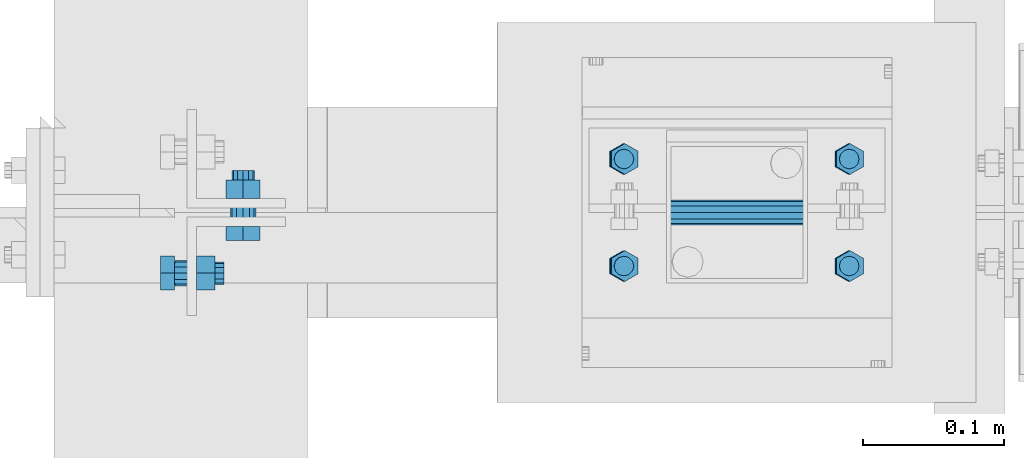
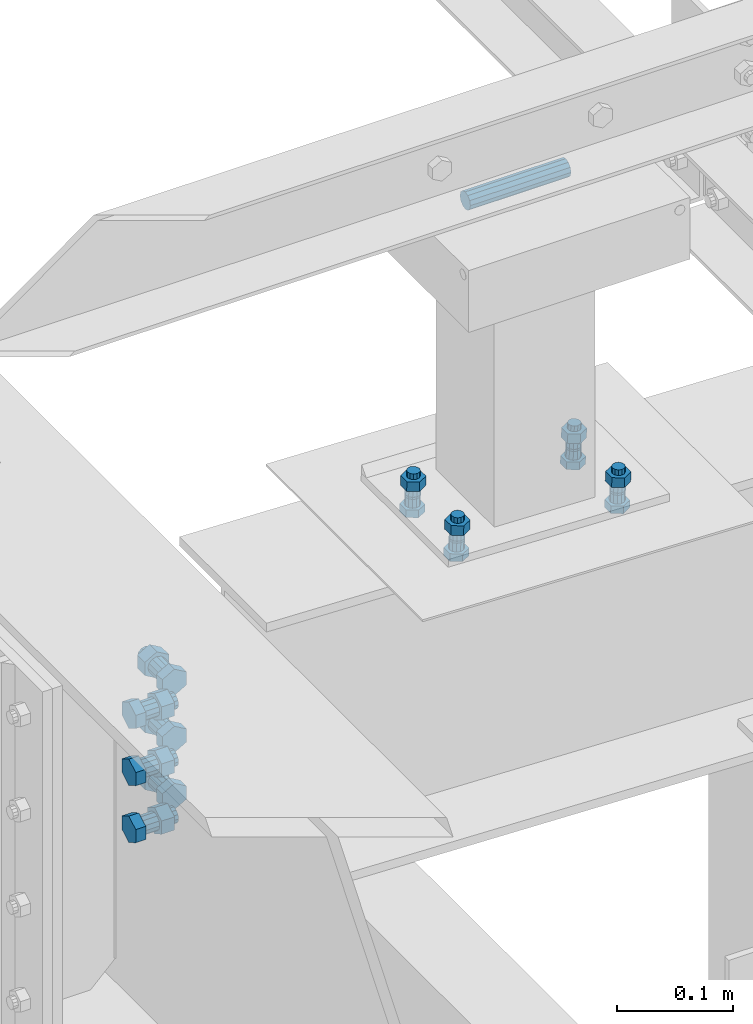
# One storey, part 45 of 3134: 5 mechanical fasteners, 3 elements without a shape of their own.
"""IFC2X3 building model written with IfcOpenShell, lengths in millimetres."""

import ifcopenshell
import ifcopenshell.guid

model = None  # the IFC model being written
_history = None  # IfcOwnerHistory: only IFC2X3 demands one
_inside = {}  # id of a spatial element -> (the spatial element, [elements in it])
_under = {}  # id of a project, library or spatial element -> (it, [spatial elements below it])
_declared = {}  # id of a project -> (the project, [libraries it declares])
_typed = {}  # id of a type object -> (the type object, [elements of that type])
_made_of = {}  # id of a material, layer set ... -> (it, [elements and type objects made of it])


def new_model(schema):
    """Start an empty IFC model of exactly this schema.

    Asked for "IFC4X3", IfcOpenShell would pick the latest addendum, in which some entities
    have other attributes; the version numbers below select the first issue.
    IFC2X3 requires an IfcOwnerHistory on every rooted entity: one is made here for all.
    """
    global model, _history
    if schema == "IFC4X3":
        model = ifcopenshell.file(schema_version=(4, 3, 0, 0))
    else:
        model = ifcopenshell.file(schema=schema)
    _inside.clear()
    _under.clear()
    _declared.clear()
    _typed.clear()
    _made_of.clear()
    _history = None
    if model.schema == "IFC2X3":
        org = make("IfcOrganization", Name="unknown")
        user = make(
            "IfcPersonAndOrganization",
            ThePerson=make("IfcPerson", FamilyName="unknown"),
            TheOrganization=org,
        )
        app = make(
            "IfcApplication",
            ApplicationDeveloper=org,
            Version="unknown",
            ApplicationFullName="unknown",
            ApplicationIdentifier="unknown",
        )
        _history = make(
            "IfcOwnerHistory",
            OwningUser=user,
            OwningApplication=app,
            ChangeAction="ADDED",
            CreationDate=0,
        )
    return model


def make(cls, **values):
    """One entity of the class cls with the attributes given. An attribute that is None is left unset."""
    return model.create_entity(
        cls, **{name: value for name, value in values.items() if value is not None}
    )


def rooted(cls, **values):
    """An entity with a GlobalId (a new one), such as an element, a storey or a relation."""
    return make(cls, GlobalId=ifcopenshell.guid.new(), OwnerHistory=_history, **values)


def si_unit(unit_type, name, prefix=None):
    """IfcSIUnit, for example si_unit("LENGTHUNIT", "METRE", prefix="MILLI")."""
    return make("IfcSIUnit", UnitType=unit_type, Prefix=prefix, Name=name)


def assignment(units):
    """IfcUnitAssignment: the units of a project."""
    return None if units is None else make("IfcUnitAssignment", Units=units)


def point(xyz):
    """IfcCartesianPoint."""
    return None if xyz is None else make("IfcCartesianPoint", Coordinates=xyz)


def direction(xyz):
    """IfcDirection."""
    return None if xyz is None else make("IfcDirection", DirectionRatios=xyz)


def frame(location, z_axis=None, x_axis=None):
    """IfcAxis2Placement3D, a coordinate frame: its origin and axes. An axis left out is left unset."""
    return make(
        "IfcAxis2Placement3D",
        Location=point(location),
        Axis=direction(z_axis),
        RefDirection=direction(x_axis),
    )


def origin_with_axes():
    """The frame at (0, 0, 0) with the z axis (0, 0, 1) and the x axis (1, 0, 0) written out."""
    return frame((0.0, 0.0, 0.0), z_axis=(0.0, 0.0, 1.0), x_axis=(1.0, 0.0, 0.0))


def place(relative_to, where):
    """IfcLocalPlacement: puts the frame where relative to a parent placement (None: the world)."""
    return make(
        "IfcLocalPlacement", PlacementRelTo=relative_to, RelativePlacement=where
    )


def context(
    kind, dimensions, precision=None, world=None, true_north=None, identifier=None
):
    """IfcGeometricRepresentationContext, for example the 3D "Model" context."""
    return make(
        "IfcGeometricRepresentationContext",
        ContextIdentifier=identifier,
        ContextType=kind,
        CoordinateSpaceDimension=dimensions,
        Precision=precision,
        WorldCoordinateSystem=world,
        TrueNorth=true_north,
    )


def subcontext(parent, identifier, kind, view, scale=None):
    """IfcGeometricRepresentationSubContext, for example "Body" below "Model"."""
    return make(
        "IfcGeometricRepresentationSubContext",
        ContextIdentifier=identifier,
        ContextType=kind,
        ParentContext=parent,
        TargetScale=scale,
        TargetView=view,
    )


def project(units=None, contexts=None):
    """IfcProject with its units and contexts."""
    return rooted(
        "IfcProject",
        Name="project",
        RepresentationContexts=contexts,
        UnitsInContext=assignment(units),
    )


def spatial(cls, under=None, at=None, **own):
    """A site, building, storey or space (cls), placed at a placement, below another one or the project."""
    s = rooted(cls, ObjectPlacement=at, **own)
    if under is not None:
        _under.setdefault(under.id(), (under, []))[1].append(s)
    return s


def faces_of(points, faces, orient=None, outer=None):
    """IfcFace entities. A face is a list of loops; a loop is a list of indices into points, from 0.

    orient and outer hold one flag for each loop. By default every Orientation is true, the
    first loop of a face is its IfcFaceOuterBound and the others are IfcFaceBound.
    """
    made = []
    for i, loops in enumerate(faces):
        bounds = []
        for j, loop in enumerate(loops):
            is_outer = j == 0 if outer is None else outer[i][j]
            bounds.append(
                make(
                    "IfcFaceOuterBound" if is_outer else "IfcFaceBound",
                    Bound=make("IfcPolyLoop", Polygon=[points[k] for k in loop]),
                    Orientation=True if orient is None else orient[i][j],
                )
            )
        made.append(make("IfcFace", Bounds=bounds))
    return made


def faceted_brep(points, faces, orient=None, outer=None, voids=None):
    """IfcFacetedBrep: a solid bounded by flat faces; with voids (closed shells), ...WithVoids."""
    shared = [point(p) for p in points]
    hull = make("IfcClosedShell", CfsFaces=faces_of(shared, faces, orient, outer))
    if voids is None:
        return make("IfcFacetedBrep", Outer=hull)
    return make(
        "IfcFacetedBrepWithVoids",
        Outer=hull,
        Voids=[
            make(cls, CfsFaces=faces_of(shared, fs, o, b)) for cls, fs, o, b in voids
        ],
    )


def shape(context_of_items, identifier, shape_type, items):
    """IfcShapeRepresentation: the items that make up one representation, for example the "Body"."""
    return make(
        "IfcShapeRepresentation",
        ContextOfItems=context_of_items,
        RepresentationIdentifier=identifier,
        RepresentationType=shape_type,
        Items=items,
    )


def source(mapping_origin, context_of_items, identifier, shape_type, items):
    """IfcRepresentationMap: a shape defined once, which mapped items show again and again."""
    return make(
        "IfcRepresentationMap",
        MappingOrigin=mapping_origin,
        MappedRepresentation=shape(context_of_items, identifier, shape_type, items),
    )


def transform(
    local_origin,
    x_axis=None,
    y_axis=None,
    z_axis=None,
    scale=None,
    scale2=None,
    scale3=None,
    uniform=True,
):
    """IfcCartesianTransformationOperator3D, or its non-uniform kind. x_axis, y_axis, z_axis: its Axis1, 2, 3."""
    if uniform:
        return make(
            "IfcCartesianTransformationOperator3D",
            Axis1=direction(x_axis),
            Axis2=direction(y_axis),
            LocalOrigin=point(local_origin),
            Scale=scale,
            Axis3=direction(z_axis),
        )
    return make(
        "IfcCartesianTransformationOperator3DnonUniform",
        Axis1=direction(x_axis),
        Axis2=direction(y_axis),
        LocalOrigin=point(local_origin),
        Scale=scale,
        Axis3=direction(z_axis),
        Scale2=scale2,
        Scale3=scale3,
    )


def mapped(mapping_source, mapping_target):
    """IfcMappedItem: shows the shape of a source again, moved by a transform."""
    return make(
        "IfcMappedItem", MappingSource=mapping_source, MappingTarget=mapping_target
    )


def material(Name=None, Category=None):
    """IfcMaterial."""
    return make("IfcMaterial", Name=Name, Category=Category)


def made_of(thing, what):
    """Note that an element or type object is made of a material, layer set ...; save() writes the relation."""
    if what is not None:
        _made_of.setdefault(what.id(), (what, []))[1].append(thing)
    return thing


def type_object(cls, material=None, **own):
    """A type object (cls), such as IfcWallType, which elements share."""
    return made_of(rooted(cls, **own), material)


def element(
    cls,
    number,
    at=None,
    inside=None,
    cuts=None,
    type_object=None,
    material=None,
    context=None,
    identifier="Body",
    shape_type=None,
    held_by="IfcProductDefinitionShape",
    body=None,
    shapes=None,
    **own,
):
    """One element of the class cls, such as IfcWall. Its Tag is "e" and its number.

    at: its placement. inside: the storey or other place that contains it. cuts: it is an
    opening in that element (IfcRelVoidsElement). A single representation is given by context,
    identifier, shape_type and body (its items); several are given by shapes. held_by: the class
    of the entity that holds the representations. save() writes the other relations.
    """
    e = rooted(cls, Tag="e%d" % number, ObjectPlacement=at, **own)
    if body is not None:
        shapes = [shape(context, identifier, shape_type, body)]
    if shapes is not None:
        e.Representation = make(held_by, Representations=shapes)
    if inside is not None:
        _inside.setdefault(inside.id(), (inside, []))[1].append(e)
    if cuts is not None:
        rooted(
            "IfcRelVoidsElement", RelatingBuildingElement=cuts, RelatedOpeningElement=e
        )
    if type_object is not None:
        _typed.setdefault(type_object.id(), (type_object, []))[1].append(e)
    return made_of(e, material)


def aggregate(whole, parts):
    """IfcRelAggregates: a whole, such as a stair, and the parts it consists of."""
    return rooted("IfcRelAggregates", RelatingObject=whole, RelatedObjects=parts)


def save(model, path):
    """Write the relations noted so far, then the file.

    IfcRelAggregates (storeys below a building ...), IfcRelContainedInSpatialStructure (elements
    in a storey), IfcRelDefinesByType, IfcRelAssociatesMaterial and IfcRelDeclares: one each for
    every whole, place, type object, material and project.
    """
    for whole, parts in _under.values():
        aggregate(whole, parts)
    for where, things in _inside.values():
        rooted(
            "IfcRelContainedInSpatialStructure",
            RelatedElements=things,
            RelatingStructure=where,
        )
    for kind, things in _typed.values():
        rooted("IfcRelDefinesByType", RelatedObjects=things, RelatingType=kind)
    for what, things in _made_of.values():
        rooted("IfcRelAssociatesMaterial", RelatedObjects=things, RelatingMaterial=what)
    for by, libraries in _declared.values():
        rooted("IfcRelDeclares", RelatingContext=by, RelatedDefinitions=libraries)
    model.write(path)


model = new_model("IFC2X3")

# Units and contexts
model_context = context("Model", 3, precision=1e-05, world=origin_with_axes())
body_context = subcontext(model_context, "Body", "Model", "MODEL_VIEW")
ifc_project = project(units=[si_unit("LENGTHUNIT", "METRE", prefix="MILLI"), si_unit("AREAUNIT", "SQUARE_METRE"), si_unit("VOLUMEUNIT", "CUBIC_METRE"), si_unit("MASSUNIT", "GRAM", prefix="KILO"), si_unit("TIMEUNIT", "SECOND"), si_unit("PLANEANGLEUNIT", "RADIAN"), si_unit("SOLIDANGLEUNIT", "STERADIAN"), si_unit("THERMODYNAMICTEMPERATUREUNIT", "DEGREE_CELSIUS"), si_unit("LUMINOUSINTENSITYUNIT", "LUMEN")], contexts=[model_context])

# Site, building, storey
site_placement = place(None, origin_with_axes())
site = spatial("IfcSite", under=ifc_project, at=site_placement, CompositionType="ELEMENT")
building_placement = place(site_placement, origin_with_axes())
building = spatial("IfcBuilding", under=site, at=building_placement, Name="Undefined", CompositionType="ELEMENT")
storey_placement = place(building_placement, origin_with_axes())
storey = spatial("IfcBuildingStorey", under=building, at=storey_placement, Name="Undefined", CompositionType="ELEMENT", Elevation=0.0)

# Assembly, mechanical fasteners
assembly_1_placement = place(storey_placement, origin_with_axes())
assembly_1 = element("IfcElementAssembly", 1, at=assembly_1_placement, inside=storey, AssemblyPlace="NOTDEFINED", PredefinedType="RIGID_FRAME")
ifc_material = material(Name="8.8")
mechanical_fastener_type = type_object("IfcMechanicalFastenerType", Name="Bolt assembly")
shared_shape_1 = source(origin_with_axes(), body_context, "Body", "Brep", [
    faceted_brep([(13.856406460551, -18.5936482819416, 0.0), (6.92820323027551, -18.5936482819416, 12.0), (-6.92820323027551, -18.5936482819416, 12.0), (-13.856406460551, -18.5936482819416, 1.69692038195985e-15), (-6.92820323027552, -18.5936482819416, -12.0), (6.9282032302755, -18.5936482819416, -12.0), (6.9282032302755, -8.59364828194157, -12.0), (-6.92820323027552, -8.59364828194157, -12.0), (-13.856406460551, -8.59364828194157, 1.69692038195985e-15), (-6.92820323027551, -8.59364828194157, 12.0), (6.92820323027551, -8.59364828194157, 12.0), (13.856406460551, -8.59364828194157, 0.0), (8.0, -8.59364828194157, 0.0), (6.92820323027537, -8.59364828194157, 4.00000000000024), (3.99999999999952, -8.59364828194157, 6.92820323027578), (-8.29068785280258e-13, -8.59364828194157, 8.0), (-4.00000000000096, -8.59364828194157, 6.92820323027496), (-6.9282032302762, -8.59364828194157, 3.99999999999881), (-8.0, -8.59364828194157, -1.65813757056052e-12), (-6.92820323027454, -8.59364828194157, -4.00000000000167), (-3.99999999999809, -8.59364828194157, -6.92820323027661), (2.47832457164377e-12, -8.59364828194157, -8.0), (4.00000000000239, -8.59364828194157, -6.92820323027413), (6.92820323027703, -8.59364828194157, -3.99999999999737), (6.92820323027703, 26.4063517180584, -3.99999999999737), (4.00000000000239, 26.4063517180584, -6.92820323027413), (2.47832457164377e-12, 26.4063517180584, -8.0), (-3.99999999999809, 26.4063517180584, -6.92820323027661), (-6.92820323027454, 26.4063517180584, -4.00000000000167), (-8.0, 26.4063517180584, -1.65813757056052e-12), (-6.9282032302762, 26.4063517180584, 3.99999999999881), (-4.00000000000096, 26.4063517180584, 6.92820323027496), (-8.29068785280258e-13, 26.4063517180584, 8.0), (3.99999999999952, 26.4063517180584, 6.92820323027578), (6.92820323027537, 26.4063517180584, 4.00000000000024), (8.0, 26.4063517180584, 0.0), (13.856406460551, 7.0, 0.0), (6.92820323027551, 7.0, 12.0), (-6.92820323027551, 7.0, 12.0), (-13.856406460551, 7.0, 1.69692038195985e-15), (-6.92820323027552, 7.0, -12.0), (6.9282032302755, 7.0, -12.0), (6.9282032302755, 20.0, -12.0), (-6.92820323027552, 20.0, -12.0), (-13.856406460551, 20.0, 1.69692038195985e-15), (-6.92820323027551, 20.0, 12.0), (6.92820323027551, 20.0, 12.0), (13.856406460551, 20.0, 0.0)], [[[0, 1, 2, 3, 4, 5]], [[6, 7, 8, 9, 10, 11]], [[0, 11, 10, 1]], [[1, 10, 9, 2]], [[2, 9, 8, 3]], [[3, 8, 7, 4]], [[4, 7, 6, 5]], [[5, 6, 11, 0]], [[12, 13, 14, 15, 16, 17, 18, 19, 20, 21, 22, 23]], [[24, 25, 26, 27, 28, 29, 30, 31, 32, 33, 34, 35]], [[12, 35, 34, 13]], [[13, 34, 33, 14]], [[14, 33, 32, 15]], [[15, 32, 31, 16]], [[16, 31, 30, 17]], [[17, 30, 29, 18]], [[18, 29, 28, 19]], [[19, 28, 27, 20]], [[20, 27, 26, 21]], [[21, 26, 25, 22]], [[22, 25, 24, 23]], [[23, 24, 35, 12]], [[36, 37, 38, 39, 40, 41]], [[42, 43, 44, 45, 46, 47]], [[36, 47, 46, 37]], [[37, 46, 45, 38]], [[38, 45, 44, 39]], [[39, 44, 43, 40]], [[40, 43, 42, 41]], [[41, 42, 47, 36]]]),
    faceted_brep([(9.0, -8.49364828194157, 0.0), (7.79422863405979, -8.49364828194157, 4.50000000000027), (4.49999999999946, -8.49364828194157, 7.79422863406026), (-9.3270238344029e-13, -8.49364828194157, 9.0), (-4.50000000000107, -8.49364828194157, 7.79422863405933), (-7.79422863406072, -8.49364828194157, 4.49999999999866), (-9.0, -8.49364828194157, -1.86540476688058e-12), (-7.79422863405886, -8.49364828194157, -4.50000000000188), (-4.49999999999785, -8.49364828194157, -7.79422863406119), (2.78811514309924e-12, -8.49364828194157, -9.0), (4.50000000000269, -8.49364828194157, -7.7942286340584), (7.79422863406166, -8.49364828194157, -4.49999999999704), (7.79422863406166, 0.10635209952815, -4.49999999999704), (4.50000000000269, 0.10635209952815, -7.7942286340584), (2.78811514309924e-12, 0.10635209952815, -9.0), (-4.49999999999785, 0.10635209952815, -7.79422863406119), (-7.79422863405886, 0.10635209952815, -4.50000000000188), (-9.0, 0.10635209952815, -1.86540476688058e-12), (-7.79422863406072, 0.10635209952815, 4.49999999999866), (-4.50000000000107, 0.10635209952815, 7.79422863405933), (-9.3270238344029e-13, 0.10635209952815, 9.0), (4.49999999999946, 0.10635209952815, 7.79422863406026), (7.79422863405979, 0.10635209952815, 4.50000000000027), (9.0, 0.10635209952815, 0.0), (9.0, -0.1, 0.0), (7.79422863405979, -0.1, 4.50000000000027), (4.49999999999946, -0.1, 7.79422863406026), (-9.3270238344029e-13, -0.1, 9.0), (-4.50000000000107, -0.1, 7.79422863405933), (-7.79422863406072, -0.1, 4.49999999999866), (-9.0, -0.1, -1.86540476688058e-12), (-7.79422863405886, -0.1, -4.50000000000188), (-4.49999999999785, -0.1, -7.79422863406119), (2.78811514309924e-12, -0.1, -9.0), (4.50000000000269, -0.1, -7.7942286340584), (7.79422863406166, -0.1, -4.49999999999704), (7.79422863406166, 7.0, -4.49999999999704), (4.50000000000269, 7.0, -7.7942286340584), (2.78811514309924e-12, 7.0, -9.0), (-4.49999999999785, 7.0, -7.79422863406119), (-7.79422863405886, 7.0, -4.50000000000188), (-9.0, 7.0, -1.86540476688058e-12), (-7.79422863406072, 7.0, 4.49999999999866), (-4.50000000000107, 7.0, 7.79422863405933), (-9.3270238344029e-13, 7.0, 9.0), (4.49999999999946, 7.0, 7.79422863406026), (7.79422863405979, 7.0, 4.50000000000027), (9.0, 7.0, 0.0)], [[[0, 1, 2, 3, 4, 5, 6, 7, 8, 9, 10, 11]], [[12, 13, 14, 15, 16, 17, 18, 19, 20, 21, 22, 23]], [[0, 23, 22, 1]], [[1, 22, 21, 2]], [[2, 21, 20, 3]], [[3, 20, 19, 4]], [[4, 19, 18, 5]], [[5, 18, 17, 6]], [[6, 17, 16, 7]], [[7, 16, 15, 8]], [[8, 15, 14, 9]], [[9, 14, 13, 10]], [[10, 13, 12, 11]], [[11, 12, 23, 0]], [[24, 25, 26, 27, 28, 29, 30, 31, 32, 33, 34, 35]], [[36, 37, 38, 39, 40, 41, 42, 43, 44, 45, 46, 47]], [[24, 47, 46, 25]], [[25, 46, 45, 26]], [[26, 45, 44, 27]], [[27, 44, 43, 28]], [[28, 43, 42, 29]], [[29, 42, 41, 30]], [[30, 41, 40, 31]], [[31, 40, 39, 32]], [[32, 39, 38, 33]], [[33, 38, 37, 34]], [[34, 37, 36, 35]], [[35, 36, 47, 24]]]),
])
mechanical_fastener_1_placement = place(assembly_1_placement, frame((4.29364809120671, 19406.96, 3841.86727512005), z_axis=(0.0, 1.0, 0.0), x_axis=(0.0, 0.0, 1.0)))
mechanical_fastener_1 = element("IfcMechanicalFastener", 2, at=mechanical_fastener_1_placement, type_object=mechanical_fastener_type, material=ifc_material, Name="Bolt assembly", NominalDiameter=16.0, NominalLength=35.0, context=body_context, shape_type="MappedRepresentation", body=[
    mapped(shared_shape_1, transform((0.0, 0.0, 0.0))),
    mapped(shared_shape_1, transform((59.9999999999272, 0.0, 5.40239852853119e-10))),
    mapped(shared_shape_1, transform((120.0, 0.0, 0.0))),
])
shared_shape_2 = source(origin_with_axes(), body_context, "Body", "Brep", [
    faceted_brep([(13.856406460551, -20.0400000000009, 0.0), (6.92820323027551, -20.0400000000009, 12.0), (-6.92820323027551, -20.0400000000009, 12.0), (-13.856406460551, -20.0400000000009, 1.69692038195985e-15), (-6.92820323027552, -20.0400000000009, -12.0), (6.9282032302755, -20.0400000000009, -12.0), (6.9282032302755, -10.0400000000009, -12.0), (-6.92820323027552, -10.0400000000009, -12.0), (-13.856406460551, -10.0400000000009, 1.69692038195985e-15), (-6.92820323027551, -10.0400000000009, 12.0), (6.92820323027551, -10.0400000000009, 12.0), (13.856406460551, -10.0400000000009, 0.0), (8.0, -10.0400000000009, 0.0), (6.92820323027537, -10.0400000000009, 4.00000000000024), (3.99999999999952, -10.0400000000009, 6.92820323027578), (-8.29068785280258e-13, -10.0400000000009, 8.0), (-4.00000000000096, -10.0400000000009, 6.92820323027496), (-6.9282032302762, -10.0400000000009, 3.99999999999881), (-8.0, -10.0400000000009, -1.65813757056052e-12), (-6.92820323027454, -10.0400000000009, -4.00000000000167), (-3.99999999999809, -10.0400000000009, -6.92820323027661), (2.47832457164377e-12, -10.0400000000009, -8.0), (4.00000000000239, -10.0400000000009, -6.92820323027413), (6.92820323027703, -10.0400000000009, -3.99999999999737), (6.92820323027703, 29.9599999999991, -3.99999999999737), (4.00000000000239, 29.9599999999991, -6.92820323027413), (2.47832457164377e-12, 29.9599999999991, -8.0), (-3.99999999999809, 29.9599999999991, -6.92820323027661), (-6.92820323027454, 29.9599999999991, -4.00000000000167), (-8.0, 29.9599999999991, -1.65813757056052e-12), (-6.9282032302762, 29.9599999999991, 3.99999999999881), (-4.00000000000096, 29.9599999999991, 6.92820323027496), (-8.29068785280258e-13, 29.9599999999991, 8.0), (3.99999999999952, 29.9599999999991, 6.92820323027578), (6.92820323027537, 29.9599999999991, 4.00000000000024), (8.0, 29.9599999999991, 0.0), (13.856406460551, 10.0400000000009, 0.0), (6.92820323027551, 10.0400000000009, 12.0), (-6.92820323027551, 10.0400000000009, 12.0), (-13.856406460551, 10.0400000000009, 1.69692038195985e-15), (-6.92820323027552, 10.0400000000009, -12.0), (6.9282032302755, 10.0400000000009, -12.0), (6.9282032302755, 23.0400000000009, -12.0), (-6.92820323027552, 23.0400000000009, -12.0), (-13.856406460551, 23.0400000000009, 1.69692038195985e-15), (-6.92820323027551, 23.0400000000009, 12.0), (6.92820323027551, 23.0400000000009, 12.0), (13.856406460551, 23.0400000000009, 0.0)], [[[0, 1, 2, 3, 4, 5]], [[6, 7, 8, 9, 10, 11]], [[0, 11, 10, 1]], [[1, 10, 9, 2]], [[2, 9, 8, 3]], [[3, 8, 7, 4]], [[4, 7, 6, 5]], [[5, 6, 11, 0]], [[12, 13, 14, 15, 16, 17, 18, 19, 20, 21, 22, 23]], [[24, 25, 26, 27, 28, 29, 30, 31, 32, 33, 34, 35]], [[12, 35, 34, 13]], [[13, 34, 33, 14]], [[14, 33, 32, 15]], [[15, 32, 31, 16]], [[16, 31, 30, 17]], [[17, 30, 29, 18]], [[18, 29, 28, 19]], [[19, 28, 27, 20]], [[20, 27, 26, 21]], [[21, 26, 25, 22]], [[22, 25, 24, 23]], [[23, 24, 35, 12]], [[36, 37, 38, 39, 40, 41]], [[42, 43, 44, 45, 46, 47]], [[36, 47, 46, 37]], [[37, 46, 45, 38]], [[38, 45, 44, 39]], [[39, 44, 43, 40]], [[40, 43, 42, 41]], [[41, 42, 47, 36]]]),
    faceted_brep([(9.0, -3.04999995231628, 0.0), (7.79422863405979, -3.04999995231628, 4.50000000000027), (4.49999999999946, -3.04999995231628, 7.79422863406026), (-9.3270238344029e-13, -3.04999995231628, 9.0), (-4.50000000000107, -3.04999995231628, 7.79422863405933), (-7.79422863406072, -3.04999995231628, 4.49999999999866), (-9.0, -3.04999995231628, -1.86540476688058e-12), (-7.79422863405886, -3.04999995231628, -4.50000000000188), (-4.49999999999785, -3.04999995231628, -7.79422863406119), (2.78811514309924e-12, -3.04999995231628, -9.0), (4.50000000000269, -3.04999995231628, -7.7942286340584), (7.79422863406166, -3.04999995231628, -4.49999999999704), (7.79422863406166, 3.04999995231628, -4.49999999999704), (4.50000000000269, 3.04999995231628, -7.7942286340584), (2.78811514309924e-12, 3.04999995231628, -9.0), (-4.49999999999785, 3.04999995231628, -7.79422863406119), (-7.79422863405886, 3.04999995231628, -4.50000000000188), (-9.0, 3.04999995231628, -1.86540476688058e-12), (-7.79422863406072, 3.04999995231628, 4.49999999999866), (-4.50000000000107, 3.04999995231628, 7.79422863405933), (-9.3270238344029e-13, 3.04999995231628, 9.0), (4.49999999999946, 3.04999995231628, 7.79422863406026), (7.79422863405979, 3.04999995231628, 4.50000000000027), (9.0, 3.04999995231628, 0.0), (9.0, -9.94000000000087, 0.0), (7.79422863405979, -9.94000000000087, 4.50000000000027), (4.49999999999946, -9.94000000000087, 7.79422863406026), (-9.3270238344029e-13, -9.94000000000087, 9.0), (-4.50000000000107, -9.94000000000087, 7.79422863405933), (-7.79422863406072, -9.94000000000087, 4.49999999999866), (-9.0, -9.94000000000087, -1.86540476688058e-12), (-7.79422863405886, -9.94000000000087, -4.50000000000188), (-4.49999999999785, -9.94000000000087, -7.79422863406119), (2.78811514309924e-12, -9.94000000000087, -9.0), (4.50000000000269, -9.94000000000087, -7.7942286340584), (7.79422863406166, -9.94000000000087, -4.49999999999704), (7.79422863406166, -2.94000000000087, -4.49999999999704), (4.50000000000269, -2.94000000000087, -7.7942286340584), (2.78811514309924e-12, -2.94000000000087, -9.0), (-4.49999999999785, -2.94000000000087, -7.79422863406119), (-7.79422863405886, -2.94000000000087, -4.50000000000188), (-9.0, -2.94000000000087, -1.86540476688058e-12), (-7.79422863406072, -2.94000000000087, 4.49999999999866), (-4.50000000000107, -2.94000000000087, 7.79422863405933), (-9.3270238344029e-13, -2.94000000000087, 9.0), (4.49999999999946, -2.94000000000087, 7.79422863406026), (7.79422863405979, -2.94000000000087, 4.50000000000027), (9.0, -2.94000000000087, 0.0), (9.0, 2.94000000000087, 0.0), (7.79422863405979, 2.94000000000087, 4.50000000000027), (4.49999999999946, 2.94000000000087, 7.79422863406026), (-9.3270238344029e-13, 2.94000000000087, 9.0), (-4.50000000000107, 2.94000000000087, 7.79422863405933), (-7.79422863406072, 2.94000000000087, 4.49999999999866), (-9.0, 2.94000000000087, -1.86540476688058e-12), (-7.79422863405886, 2.94000000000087, -4.50000000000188), (-4.49999999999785, 2.94000000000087, -7.79422863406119), (2.78811514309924e-12, 2.94000000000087, -9.0), (4.50000000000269, 2.94000000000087, -7.7942286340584), (7.79422863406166, 2.94000000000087, -4.49999999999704), (7.79422863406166, 10.0400000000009, -4.49999999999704), (4.50000000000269, 10.0400000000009, -7.7942286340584), (2.78811514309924e-12, 10.0400000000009, -9.0), (-4.49999999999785, 10.0400000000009, -7.79422863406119), (-7.79422863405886, 10.0400000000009, -4.50000000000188), (-9.0, 10.0400000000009, -1.86540476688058e-12), (-7.79422863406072, 10.0400000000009, 4.49999999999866), (-4.50000000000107, 10.0400000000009, 7.79422863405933), (-9.3270238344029e-13, 10.0400000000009, 9.0), (4.49999999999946, 10.0400000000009, 7.79422863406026), (7.79422863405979, 10.0400000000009, 4.50000000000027), (9.0, 10.0400000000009, 0.0)], [[[0, 1, 2, 3, 4, 5, 6, 7, 8, 9, 10, 11]], [[12, 13, 14, 15, 16, 17, 18, 19, 20, 21, 22, 23]], [[0, 23, 22, 1]], [[1, 22, 21, 2]], [[2, 21, 20, 3]], [[3, 20, 19, 4]], [[4, 19, 18, 5]], [[5, 18, 17, 6]], [[6, 17, 16, 7]], [[7, 16, 15, 8]], [[8, 15, 14, 9]], [[9, 14, 13, 10]], [[10, 13, 12, 11]], [[11, 12, 23, 0]], [[24, 25, 26, 27, 28, 29, 30, 31, 32, 33, 34, 35]], [[36, 37, 38, 39, 40, 41, 42, 43, 44, 45, 46, 47]], [[24, 47, 46, 25]], [[25, 46, 45, 26]], [[26, 45, 44, 27]], [[27, 44, 43, 28]], [[28, 43, 42, 29]], [[29, 42, 41, 30]], [[30, 41, 40, 31]], [[31, 40, 39, 32]], [[32, 39, 38, 33]], [[33, 38, 37, 34]], [[34, 37, 36, 35]], [[35, 36, 47, 24]], [[48, 49, 50, 51, 52, 53, 54, 55, 56, 57, 58, 59]], [[60, 61, 62, 63, 64, 65, 66, 67, 68, 69, 70, 71]], [[48, 71, 70, 49]], [[49, 70, 69, 50]], [[50, 69, 68, 51]], [[51, 68, 67, 52]], [[52, 67, 66, 53]], [[53, 66, 65, 54]], [[54, 65, 64, 55]], [[55, 64, 63, 56]], [[56, 63, 62, 57]], [[57, 62, 61, 58]], [[58, 61, 60, 59]], [[59, 60, 71, 48]]]),
])
mechanical_fastener_2_placement = place(assembly_1_placement, frame((44.2936480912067, 19450.0, 3841.86727512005), z_axis=(-1.0, 0.0, 0.0), x_axis=(0.0, 0.0, 1.0)))
mechanical_fastener_2 = element("IfcMechanicalFastener", 3, at=mechanical_fastener_2_placement, type_object=mechanical_fastener_type, material=ifc_material, Name="Bolt assembly", NominalDiameter=16.0, NominalLength=40.0, context=body_context, shape_type="MappedRepresentation", body=[
    mapped(shared_shape_2, transform((0.0, 0.0, 0.0))),
    mapped(shared_shape_2, transform((59.9999999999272, 0.0, 5.40239852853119e-10))),
    mapped(shared_shape_2, transform((120.0, 0.0, 0.0))),
])
aggregate(assembly_1, [mechanical_fastener_1, mechanical_fastener_2])

# Assembly, mechanical fastener
assembly_2_placement = place(storey_placement, origin_with_axes())
assembly_2 = element("IfcElementAssembly", 4, at=assembly_2_placement, inside=storey, AssemblyPlace="NOTDEFINED", PredefinedType="RIGID_FRAME")
shared_shape_3 = source(origin_with_axes(), body_context, "Body", "Brep", [
    faceted_brep([(10.9696551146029, -4.19432770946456, 0.0), (5.48482755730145, -4.19432770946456, 9.5), (-5.48482755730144, -4.19432770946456, 9.5), (-10.9696551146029, -4.19432770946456, 1.34339530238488e-15), (-5.48482755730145, -4.19432770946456, -9.5), (5.48482755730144, -4.19432770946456, -9.50000000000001), (5.48482755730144, 3.80567229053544, -9.50000000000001), (-5.48482755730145, 3.80567229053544, -9.5), (-10.9696551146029, 3.80567229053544, 1.34339530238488e-15), (-5.48482755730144, 3.80567229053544, 9.5), (5.48482755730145, 3.80567229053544, 9.5), (10.9696551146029, 3.80567229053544, 0.0), (6.0, 3.80567229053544, 0.0), (5.19615242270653, 3.80567229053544, 3.00000000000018), (2.99999999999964, 3.80567229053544, 5.19615242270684), (-6.21801588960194e-13, 3.80567229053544, 6.0), (-3.00000000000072, 3.80567229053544, 5.19615242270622), (-5.19615242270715, 3.80567229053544, 2.9999999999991), (-6.0, 3.80567229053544, -1.24360317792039e-12), (-5.19615242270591, 3.80567229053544, -3.00000000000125), (-2.99999999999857, 3.80567229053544, -5.19615242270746), (1.85874342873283e-12, 3.80567229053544, -6.0), (3.00000000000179, 3.80567229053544, -5.1961524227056), (5.19615242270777, 3.80567229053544, -2.99999999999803), (5.19615242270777, 38.8056722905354, -2.99999999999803), (3.00000000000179, 38.8056722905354, -5.1961524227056), (1.85874342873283e-12, 38.8056722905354, -6.0), (-2.99999999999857, 38.8056722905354, -5.19615242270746), (-5.19615242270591, 38.8056722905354, -3.00000000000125), (-6.0, 38.8056722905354, -1.24360317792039e-12), (-5.19615242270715, 38.8056722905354, 2.9999999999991), (-3.00000000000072, 38.8056722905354, 5.19615242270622), (-6.21801588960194e-13, 38.8056722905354, 6.0), (2.99999999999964, 38.8056722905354, 5.19615242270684), (5.19615242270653, 38.8056722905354, 3.00000000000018), (6.0, 38.8056722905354, 0.0), (10.9696551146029, 23.0139082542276, 0.0), (5.48482755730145, 23.0139082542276, 9.5), (-5.48482755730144, 23.0139082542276, 9.5), (-10.9696551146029, 23.0139082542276, 1.34339530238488e-15), (-5.48482755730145, 23.0139082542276, -9.5), (5.48482755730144, 23.0139082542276, -9.50000000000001), (5.48482755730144, 33.0139082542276, -9.50000000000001), (-5.48482755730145, 33.0139082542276, -9.5), (-10.9696551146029, 33.0139082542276, 1.34339530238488e-15), (-5.48482755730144, 33.0139082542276, 9.5), (5.48482755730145, 33.0139082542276, 9.5), (10.9696551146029, 33.0139082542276, 0.0)], [[[0, 1, 2, 3, 4, 5]], [[6, 7, 8, 9, 10, 11]], [[0, 11, 10, 1]], [[1, 10, 9, 2]], [[2, 9, 8, 3]], [[3, 8, 7, 4]], [[4, 7, 6, 5]], [[5, 6, 11, 0]], [[12, 13, 14, 15, 16, 17, 18, 19, 20, 21, 22, 23]], [[24, 25, 26, 27, 28, 29, 30, 31, 32, 33, 34, 35]], [[12, 35, 34, 13]], [[13, 34, 33, 14]], [[14, 33, 32, 15]], [[15, 32, 31, 16]], [[16, 31, 30, 17]], [[17, 30, 29, 18]], [[18, 29, 28, 19]], [[19, 28, 27, 20]], [[20, 27, 26, 21]], [[21, 26, 25, 22]], [[22, 25, 24, 23]], [[23, 24, 35, 12]], [[36, 37, 38, 39, 40, 41]], [[42, 43, 44, 45, 46, 47]], [[36, 47, 46, 37]], [[37, 46, 45, 38]], [[38, 45, 44, 39]], [[39, 44, 43, 40]], [[40, 43, 42, 41]], [[41, 42, 47, 36]]]),
    faceted_brep([(7.0, 3.90567229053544, 0.0), (6.06217782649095, 3.90567229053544, 3.50000000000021), (3.49999999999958, 3.90567229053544, 6.06217782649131), (-7.25435187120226e-13, 3.90567229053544, 7.0), (-3.50000000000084, 3.90567229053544, 6.06217782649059), (-6.06217782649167, 3.90567229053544, 3.49999999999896), (-7.0, 3.90567229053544, -1.45087037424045e-12), (-6.06217782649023, 3.90567229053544, -3.50000000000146), (-3.49999999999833, 3.90567229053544, -6.06217782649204), (2.1685340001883e-12, 3.90567229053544, -7.0), (3.50000000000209, 3.90567229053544, -6.06217782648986), (6.0621778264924, 3.90567229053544, -3.4999999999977), (6.0621778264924, 13.1056721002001, -3.4999999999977), (3.50000000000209, 13.1056721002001, -6.06217782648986), (2.1685340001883e-12, 13.1056721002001, -7.0), (-3.49999999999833, 13.1056721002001, -6.06217782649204), (-6.06217782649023, 13.1056721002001, -3.50000000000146), (-7.0, 13.1056721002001, -1.45087037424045e-12), (-6.06217782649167, 13.1056721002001, 3.49999999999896), (-3.50000000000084, 13.1056721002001, 6.06217782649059), (-7.25435187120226e-13, 13.1056721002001, 7.0), (3.49999999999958, 13.1056721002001, 6.06217782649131), (6.06217782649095, 13.1056721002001, 3.50000000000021), (7.0, 13.1056721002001, 0.0), (7.0, 14.9139082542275, 0.0), (6.06217782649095, 14.9139082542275, 3.50000000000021), (3.49999999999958, 14.9139082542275, 6.06217782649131), (-7.25435187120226e-13, 14.9139082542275, 7.0), (-3.50000000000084, 14.9139082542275, 6.06217782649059), (-6.06217782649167, 14.9139082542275, 3.49999999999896), (-7.0, 14.9139082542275, -1.45087037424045e-12), (-6.06217782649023, 14.9139082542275, -3.50000000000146), (-3.49999999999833, 14.9139082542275, -6.06217782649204), (2.1685340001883e-12, 14.9139082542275, -7.0), (3.50000000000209, 14.9139082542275, -6.06217782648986), (6.0621778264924, 14.9139082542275, -3.4999999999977), (6.0621778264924, 23.0139082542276, -3.4999999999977), (3.50000000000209, 23.0139082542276, -6.06217782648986), (2.1685340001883e-12, 23.0139082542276, -7.0), (-3.49999999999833, 23.0139082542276, -6.06217782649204), (-6.06217782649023, 23.0139082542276, -3.50000000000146), (-7.0, 23.0139082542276, -1.45087037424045e-12), (-6.06217782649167, 23.0139082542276, 3.49999999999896), (-3.50000000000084, 23.0139082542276, 6.06217782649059), (-7.25435187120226e-13, 23.0139082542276, 7.0), (3.49999999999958, 23.0139082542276, 6.06217782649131), (6.06217782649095, 23.0139082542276, 3.50000000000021), (7.0, 23.0139082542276, 0.0)], [[[0, 1, 2, 3, 4, 5, 6, 7, 8, 9, 10, 11]], [[12, 13, 14, 15, 16, 17, 18, 19, 20, 21, 22, 23]], [[0, 23, 22, 1]], [[1, 22, 21, 2]], [[2, 21, 20, 3]], [[3, 20, 19, 4]], [[4, 19, 18, 5]], [[5, 18, 17, 6]], [[6, 17, 16, 7]], [[7, 16, 15, 8]], [[8, 15, 14, 9]], [[9, 14, 13, 10]], [[10, 13, 12, 11]], [[11, 12, 23, 0]], [[24, 25, 26, 27, 28, 29, 30, 31, 32, 33, 34, 35]], [[36, 37, 38, 39, 40, 41, 42, 43, 44, 45, 46, 47]], [[24, 47, 46, 25]], [[25, 46, 45, 26]], [[26, 45, 44, 27]], [[27, 44, 43, 28]], [[28, 43, 42, 29]], [[29, 42, 41, 30]], [[30, 41, 40, 31]], [[31, 40, 39, 32]], [[32, 39, 38, 33]], [[33, 38, 37, 34]], [[34, 37, 36, 35]], [[35, 36, 47, 24]]]),
])
mechanical_fastener_3_placement = place(assembly_2_placement, frame((394.193176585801, 19487.9999999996, 4013.19000668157), z_axis=(-0.999387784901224, 0.0, 0.0349865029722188), x_axis=(0.0, -1.0, 0.0)))
mechanical_fastener_3 = element("IfcMechanicalFastener", 5, at=mechanical_fastener_3_placement, type_object=mechanical_fastener_type, material=ifc_material, Name="Bolt assembly", NominalDiameter=12.0, NominalLength=35.0, context=body_context, shape_type="MappedRepresentation", body=[
    mapped(shared_shape_3, transform((0.0, -5.32963895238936e-10, -79.9999999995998))),
    mapped(shared_shape_3, transform((76.0, -5.32963895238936e-10, -79.9999999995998))),
    mapped(shared_shape_3, transform((0.0, 5.3114490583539e-10, 79.9999999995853))),
    mapped(shared_shape_3, transform((76.0, 5.3114490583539e-10, 79.9999999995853))),
])

assembly_3_placement = place(storey_placement, origin_with_axes())
assembly_3 = element("IfcElementAssembly", 6, at=assembly_3_placement, inside=storey, AssemblyPlace="NOTDEFINED", PredefinedType="RIGID_FRAME")
shared_shape_4 = source(origin_with_axes(), body_context, "Body", "Brep", [
    faceted_brep([(7.0, 13.0000253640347, 0.0), (6.06217782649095, 13.0000253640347, 3.50000000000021), (3.49999999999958, 13.0000253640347, 6.06217782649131), (-7.25435187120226e-13, 13.0000253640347, 7.0), (-3.50000000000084, 13.0000253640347, 6.06217782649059), (-6.06217782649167, 13.0000253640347, 3.49999999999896), (-7.0, 13.0000253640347, -1.45087037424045e-12), (-6.06217782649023, 13.0000253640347, -3.50000000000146), (-3.49999999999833, 13.0000253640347, -6.06217782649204), (2.1685340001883e-12, 13.0000253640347, -7.0), (3.50000000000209, 13.0000253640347, -6.06217782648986), (6.0621778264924, 13.0000253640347, -3.4999999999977), (6.0621778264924, 15.0999999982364, -3.4999999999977), (3.50000000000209, 15.0999999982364, -6.06217782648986), (2.1685340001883e-12, 15.0999999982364, -7.0), (-3.49999999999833, 15.0999999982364, -6.06217782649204), (-6.06217782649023, 15.0999999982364, -3.50000000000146), (-7.0, 15.0999999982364, -1.45087037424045e-12), (-6.06217782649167, 15.0999999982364, 3.49999999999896), (-3.50000000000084, 15.0999999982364, 6.06217782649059), (-7.25435187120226e-13, 15.0999999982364, 7.0), (3.49999999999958, 15.0999999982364, 6.06217782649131), (6.06217782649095, 15.0999999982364, 3.50000000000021), (7.0, 15.0999999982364, 0.0)], [[[0, 1, 2, 3, 4, 5, 6, 7, 8, 9, 10, 11]], [[12, 13, 14, 15, 16, 17, 18, 19, 20, 21, 22, 23]], [[0, 23, 22, 1]], [[1, 22, 21, 2]], [[2, 21, 20, 3]], [[3, 20, 19, 4]], [[4, 19, 18, 5]], [[5, 18, 17, 6]], [[6, 17, 16, 7]], [[7, 16, 15, 8]], [[8, 15, 14, 9]], [[9, 14, 13, 10]], [[10, 13, 12, 11]], [[11, 12, 23, 0]]]),
])
mechanical_fastener_4_placement = place(assembly_3_placement, frame((394.193176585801, 19487.9999999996, 4013.19000668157), z_axis=(-0.999387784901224, 0.0, 0.0349865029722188), x_axis=(0.0, -1.0, 0.0)))
mechanical_fastener_4 = element("IfcMechanicalFastener", 7, at=mechanical_fastener_4_placement, type_object=mechanical_fastener_type, material=ifc_material, Name="Bolt assembly", NominalDiameter=12.0, NominalLength=2.0, context=body_context, shape_type="MappedRepresentation", body=[
    mapped(shared_shape_4, transform((0.0, -5.32963895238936e-10, -79.9999999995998))),
    mapped(shared_shape_4, transform((76.0, -5.32963895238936e-10, -79.9999999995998))),
    mapped(shared_shape_4, transform((0.0, 5.3114490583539e-10, 79.9999999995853))),
    mapped(shared_shape_4, transform((76.0, 5.3114490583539e-10, 79.9999999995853))),
])
aggregate(assembly_3, [mechanical_fastener_4])

# Mechanical fastener
shared_shape_5 = source(origin_with_axes(), body_context, "Body", "Brep", [
    faceted_brep([(9.0, -50.0, 0.0), (7.79422863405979, -50.0, 4.50000000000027), (4.49999999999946, -50.0, 7.79422863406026), (-9.3270238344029e-13, -50.0, 9.0), (-4.50000000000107, -50.0, 7.79422863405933), (-7.79422863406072, -50.0, 4.49999999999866), (-9.0, -50.0, -1.86540476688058e-12), (-7.79422863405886, -50.0, -4.50000000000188), (-4.49999999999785, -50.0, -7.79422863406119), (2.78811514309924e-12, -50.0, -9.0), (4.50000000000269, -50.0, -7.7942286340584), (7.79422863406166, -50.0, -4.49999999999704), (7.79422863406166, 50.1, -4.49999999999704), (4.50000000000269, 50.1, -7.7942286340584), (2.78811514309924e-12, 50.1, -9.0), (-4.49999999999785, 50.1, -7.79422863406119), (-7.79422863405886, 50.1, -4.50000000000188), (-9.0, 50.1, -1.86540476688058e-12), (-7.79422863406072, 50.1, 4.49999999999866), (-4.50000000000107, 50.1, 7.79422863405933), (-9.3270238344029e-13, 50.1, 9.0), (4.49999999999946, 50.1, 7.79422863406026), (7.79422863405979, 50.1, 4.50000000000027), (9.0, 50.1, 0.0)], [[[0, 1, 2, 3, 4, 5, 6, 7, 8, 9, 10, 11]], [[12, 13, 14, 15, 16, 17, 18, 19, 20, 21, 22, 23]], [[0, 23, 22, 1]], [[1, 22, 21, 2]], [[2, 21, 20, 3]], [[3, 20, 19, 4]], [[4, 19, 18, 5]], [[5, 18, 17, 6]], [[6, 17, 16, 7]], [[7, 16, 15, 8]], [[8, 15, 14, 9]], [[9, 14, 13, 10]], [[10, 13, 12, 11]], [[11, 12, 23, 0]]]),
])
mechanical_fastener_5_placement = place(assembly_2_placement, frame((395.0, 19450.0, 4351.0), z_axis=(0.0, 1.0, 0.0), x_axis=(0.0, 0.0, 1.0)))
mechanical_fastener_5 = element("IfcMechanicalFastener", 8, at=mechanical_fastener_5_placement, type_object=mechanical_fastener_type, material=ifc_material, Name="Bolt assembly", NominalDiameter=16.0, NominalLength=100.0, context=body_context, shape_type="MappedRepresentation", body=[
    mapped(shared_shape_5, transform((0.0, 0.0, 0.0))),
])

aggregate(assembly_2, [mechanical_fastener_3, mechanical_fastener_5])

save(model, "model.ifc")
